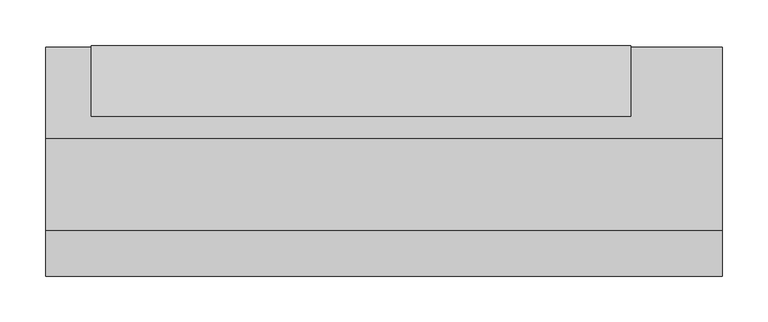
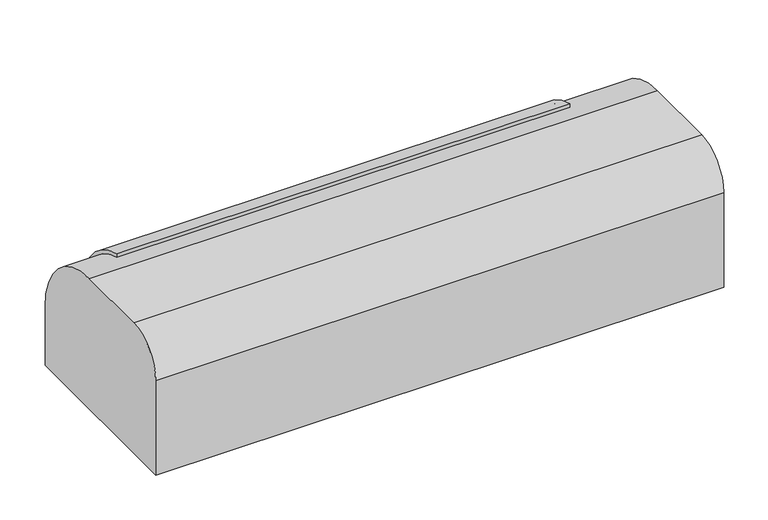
"""IFC4 building model written with IfcOpenShell, lengths in millimetres: proxy geometry, Unidade Evaporadora - Sistema Split AC - 9-30 kBtu : Padrão."""

from ifc_helpers import new_model, si_unit, point, frame, frame_2d, origin, place, context, project, spatial, polyline, circle_curve, trimmed, segment, composite_curve, outline, extrude, source, transform, mapped, element, save


def mechanical_equipment_9aaa4a25(model_context):
    return source(origin(), model_context, "Body", "SweptSolid", [
        extrude(outline(composite_curve([segment(polyline([(49.7487373, 176.8891119), (49.7487373, 182.0416582)]), True, "CONTINUOUS"), segment(trimmed(circle_curve(frame_2d((25.0, 80.0)), 105.0), [point((49.7487373, 182.0416582))], [point((126.9113165, 105.2801021))], False, "CARTESIAN"), True, "CONTINUOUS"), segment(polyline([(126.9113165, 105.2801021), (121.7518291, 105.2801021)]), True, "CONTINUOUS"), segment(trimmed(circle_curve(frame_2d((25.0, 80.0)), 100.0), [point((121.7518291, 105.2801021))], [point((49.7487373, 176.8891119))], True, "CARTESIAN"), True, "CONTINUOUS")], self_intersect=False)), frame((-320.0, 0.0, 0.0), z_axis=(1.0, 0.0, 0.0), x_axis=(0.0, 1.0, 0.0)), (0.0, 0.0, 1.0), 590.0),
        extrude(outline(composite_curve([segment(trimmed(circle_curve(frame_2d((75.0, 118.0)), 14.0), [point((75.0, 104.0))], [point((75.0, 132.0))], False, "CARTESIAN"), True, "CONTINUOUS"), segment(trimmed(circle_curve(frame_2d((75.0, 118.0)), 14.0), [point((75.0, 132.0))], [point((75.0, 104.0))], False, "CARTESIAN"), True, "CONTINUOUS")], self_intersect=False)), frame((325.0, 0.0, 0.0), z_axis=(1.0, 0.0, 0.0), x_axis=(0.0, 1.0, 0.0)), (0.0, 0.0, 1.0), 45.0),
        extrude(outline(composite_curve([segment(trimmed(circle_curve(frame_2d((25.0, 104.0)), 14.0), [point((25.0, 90.0))], [point((25.0, 118.0))], False, "CARTESIAN"), True, "CONTINUOUS"), segment(trimmed(circle_curve(frame_2d((25.0, 104.0)), 14.0), [point((25.0, 118.0))], [point((25.0, 90.0))], False, "CARTESIAN"), True, "CONTINUOUS")], self_intersect=False)), frame((325.0, 0.0, 0.0), z_axis=(1.0, 0.0, 0.0), x_axis=(0.0, 1.0, 0.0)), (0.0, 0.0, 1.0), 45.0),
        extrude(outline(composite_curve([segment(trimmed(circle_curve(frame_2d((50.0, 68.0)), 11.0), [point((50.0, 57.0))], [point((50.0, 79.0))], False, "CARTESIAN"), True, "CONTINUOUS"), segment(trimmed(circle_curve(frame_2d((50.0, 68.0)), 11.0), [point((50.0, 79.0))], [point((50.0, 57.0))], False, "CARTESIAN"), True, "CONTINUOUS")], self_intersect=False)), frame((325.0, 0.0, 0.0), z_axis=(1.0, 0.0, 0.0), x_axis=(0.0, 1.0, 0.0)), (0.0, 0.0, 1.0), 45.0),
        extrude(outline(composite_curve([segment(trimmed(circle_curve(frame_2d((0.0, 50.0)), 20.0), [point((0.0, 30.0))], [point((0.0, 70.0))], False, "CARTESIAN"), True, "CONTINUOUS"), segment(trimmed(circle_curve(frame_2d((0.0, 50.0)), 20.0), [point((0.0, 70.0))], [point((0.0, 30.0))], False, "CARTESIAN"), True, "CONTINUOUS")], self_intersect=False)), frame((325.0, 0.0, 0.0), z_axis=(1.0, 0.0, 0.0), x_axis=(0.0, 1.0, 0.0)), (0.0, 0.0, 1.0), 45.0),
        extrude(outline(composite_curve([segment(polyline([(125.0, 0.0), (-125.0, 0.0), (-125.0, 130.0)]), True, "CONTINUOUS"), segment(trimmed(circle_curve(frame_2d((-75.0, 130.0)), 50.0), [point((-125.0, 130.0))], [point((-75.0, 180.0))], False, "CARTESIAN"), True, "CONTINUOUS"), segment(polyline([(-75.0, 180.0), (25.0, 180.0)]), True, "CONTINUOUS"), segment(trimmed(circle_curve(frame_2d((25.0, 80.0)), 100.0), [point((25.0, 180.0))], [point((125.0, 80.0))], False, "CARTESIAN"), True, "CONTINUOUS"), segment(polyline([(125.0, 80.0), (125.0, 0.0)]), True, "CONTINUOUS")], self_intersect=False)), frame((-370.0, 0.0, 0.0), z_axis=(1.0, 0.0, 0.0), x_axis=(0.0, 1.0, 0.0)), (0.0, 0.0, 1.0), 740.0),
    ])


if __name__ == "__main__":
    model = new_model("IFC4")
    model_context = context("Model", 3, world=origin())
    ifc_project = project(units=[si_unit("LENGTHUNIT", "METRE", prefix="MILLI")], contexts=[model_context])
    site = spatial("IfcSite", under=ifc_project)
    building = spatial("IfcBuilding", under=site)
    placement = place(None, origin())
    mechanical_equipment_shape = mechanical_equipment_9aaa4a25(model_context)
    element("IfcBuildingElementProxy", 1, Name="Unidade Evaporadora - Sistema Split AC - 9-30 kBtu : Padrão", ObjectType="Unidade Evaporadora - Sistema Split AC - 9-30 kBtu : Padrão", at=placement, inside=building, context=model_context, shape_type="MappedRepresentation", body=[
        mapped(mechanical_equipment_shape, transform((0.0, 0.0, 0.0), x_axis=(1.0, 0.0, 0.0), y_axis=(0.0, 1.0, 0.0), z_axis=(0.0, 0.0, 1.0))),
    ])
    save(model, "model.ifc")
